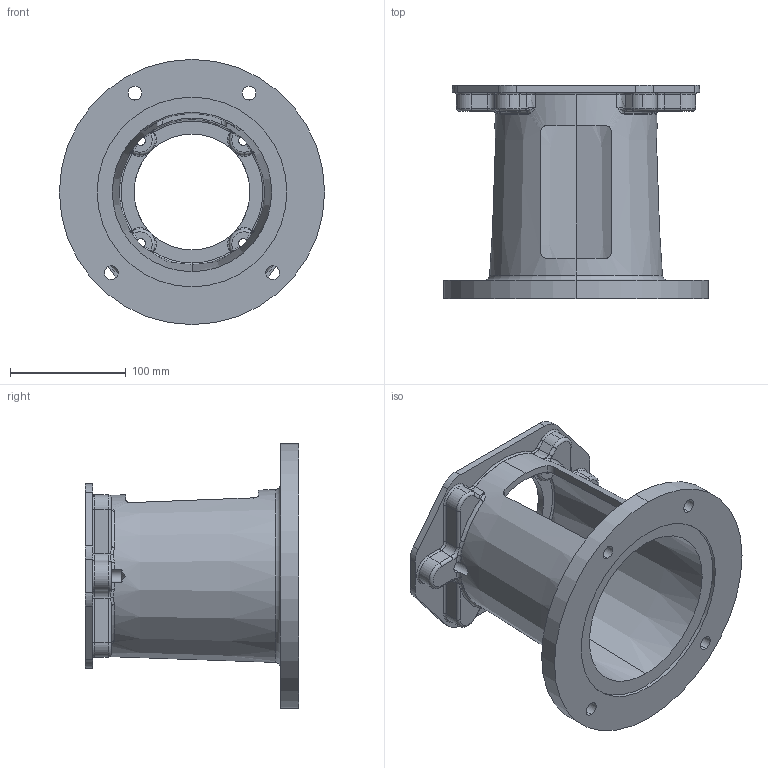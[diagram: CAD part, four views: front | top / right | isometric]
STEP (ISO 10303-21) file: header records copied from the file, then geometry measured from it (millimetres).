
FILE_DESCRIPTION (( 'STEP AP203' ), '1' );
FILE_NAME ('E64472100M.STEP', '2014-11-03T19:00:00', ( '' ), ( '' ), 'SwSTEP 2.0', 'SolidWorks 2014', '' );
FILE_SCHEMA (( 'CONFIG_CONTROL_DESIGN' ));
Length unit declared in the file: inch
Products named in the file (1): E64472100M
Bounding box: 228.6 x 184.15 x 228.6 mm (x, y, z)
Volume: 1000713.9 mm3; surface area: 246644.7 mm2
Topology: 1 solids, 1 shells, 276 faces, 724 edges, 425 vertices
Faces by surface type: torus 79, cylinder 74, bspline 48, plane 43, cone 16, sphere 16
Entity records: 10761 total; most frequent: CARTESIAN_POINT 4208, ORIENTED_EDGE 1408, DIRECTION 1386, EDGE_CURVE 704, AXIS2_PLACEMENT_3D 621, VERTEX_POINT 425, CIRCLE 392, EDGE_LOOP 295
